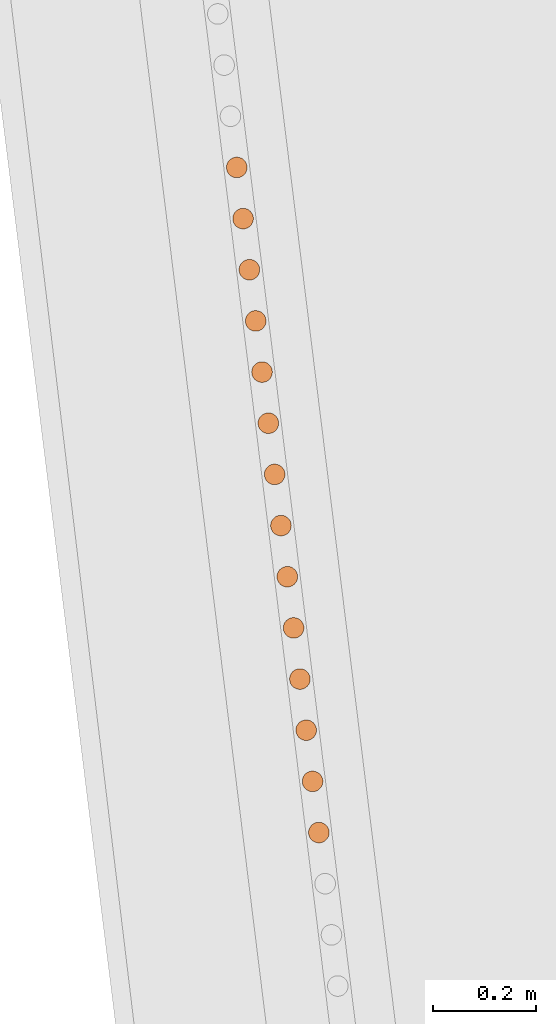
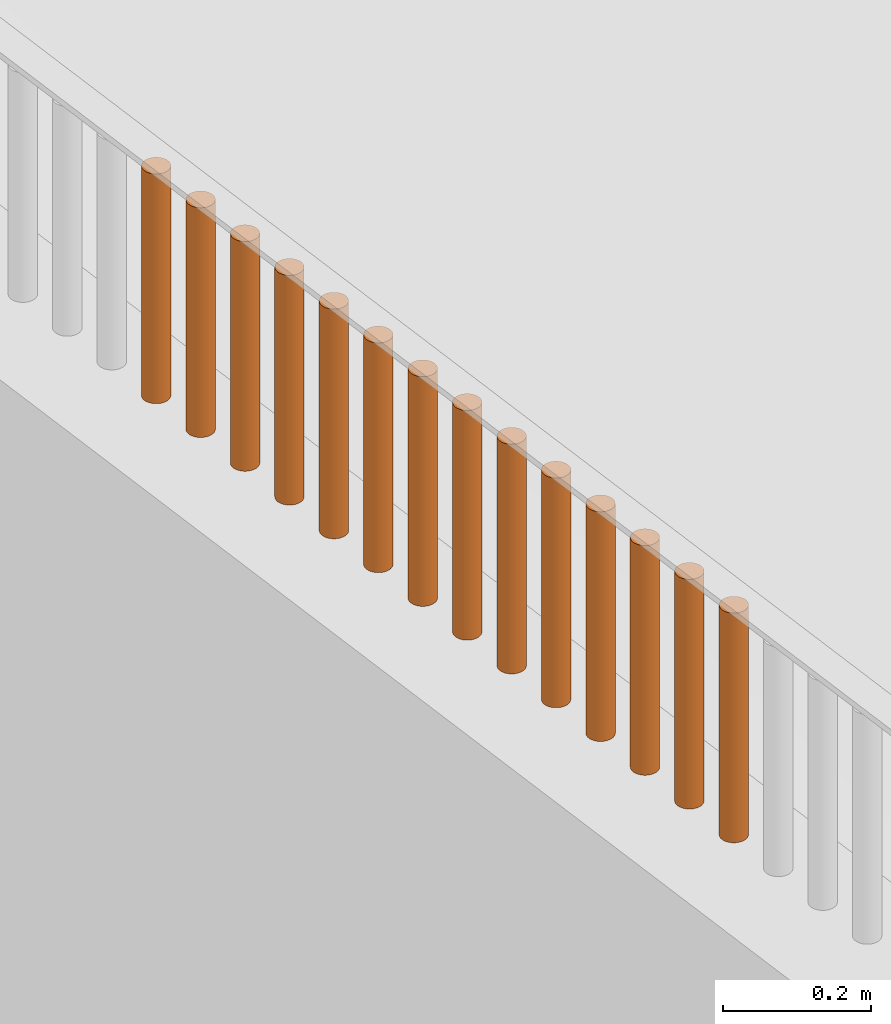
# One storey, part 62 of 1809: 14 proxies, 1 element without a shape of its own.
"""IFC2X3 building model written with IfcOpenShell, lengths in millimetres."""

from ifc_helpers import new_model, entity, si_unit, converted_unit, derived_unit, money_unit, direction, frame, origin_with_axes, place, context, subcontext, project, spatial, faceted_brep, source, transform, mapped, material, type_object, element, aggregate, save


model = new_model("IFC2X3")

# Units and contexts
model_context = context("Model", 3, precision=0.01, world=origin_with_axes(), true_north=direction((0.0, 1.0)))
body_context = subcontext(model_context, "Body", "Model", "MODEL_VIEW")
ifc_project = project(units=[si_unit("LENGTHUNIT", "METRE", prefix="MILLI"), si_unit("AREAUNIT", "SQUARE_METRE"), si_unit("VOLUMEUNIT", "CUBIC_METRE"), converted_unit("PLANEANGLEUNIT", "DEGREE", entity("IfcPlaneAngleMeasure", 0.0174532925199), si_unit("PLANEANGLEUNIT", "RADIAN"), dimensions=[0, 0, 0, 0, 0, 0, 0]), si_unit("SOLIDANGLEUNIT", "STERADIAN"), money_unit("EUR"), converted_unit("TIMEUNIT", "Year", entity("IfcTimeMeasure", 31556926.0), si_unit("TIMEUNIT", "SECOND"), dimensions=[0, 0, 1, 0, 0, 0, 0]), si_unit("MASSUNIT", "GRAM", prefix="KILO"), si_unit("THERMODYNAMICTEMPERATUREUNIT", "DEGREE_CELSIUS"), si_unit("LUMINOUSINTENSITYUNIT", "LUMEN"), si_unit("ENERGYUNIT", "JOULE", prefix="MEGA"), derived_unit("THERMALCONDUCTANCEUNIT", [(si_unit("POWERUNIT", "WATT"), 1), (si_unit("LENGTHUNIT", "METRE"), -1), (si_unit("THERMODYNAMICTEMPERATUREUNIT", "KELVIN"), -1)]), derived_unit("SPECIFICHEATCAPACITYUNIT", [(si_unit("ENERGYUNIT", "JOULE"), 1), (si_unit("MASSUNIT", "GRAM", prefix="KILO"), -1), (si_unit("THERMODYNAMICTEMPERATUREUNIT", "KELVIN"), -1)]), derived_unit("MASSDENSITYUNIT", [(si_unit("MASSUNIT", "GRAM", prefix="KILO"), 1), (si_unit("VOLUMEUNIT", "CUBIC_METRE"), -1)])], contexts=[model_context])

# Site, building, storey
site_placement = place(None, origin_with_axes())
site = spatial("IfcSite", under=ifc_project, at=site_placement, Name="Politse- ja Piirivalveameti ning Päästeameti ühishoone", CompositionType="ELEMENT")
building_placement = place(site_placement, origin_with_axes())
building = spatial("IfcBuilding", under=site, at=building_placement, Name="Politse- ja Piirivalveameti ning Päästeameti ühishoone", CompositionType="ELEMENT")
storey_placement = place(building_placement, origin_with_axes())
storey = spatial("IfcBuildingStorey", under=building, at=storey_placement, Name="Esimene korrus", CompositionType="ELEMENT", Elevation=0.0)

# Proxies
building_element_proxy_type_1 = type_object("IfcBuildingElementProxyType", Name="Railing Type", PredefinedType="NOTDEFINED")
proxy_1_placement = place(storey_placement, frame((-18956.5522504, -53688.4757966, 2100.0), z_axis=(0.0, 0.0, 1.0), x_axis=(1.0, 0.0, 0.0)))
proxy_1 = element("IfcBuildingElementProxy", 1, at=proxy_1_placement, inside=storey, type_object=building_element_proxy_type_1, Name="PIIRDEAED")
ifc_material = material(Name="ET-06_Teras - Konstruktsioon")
building_element_proxy_type_2 = type_object("IfcBuildingElementProxyType", Name="IfcBuildingElementProxy", PredefinedType="NOTDEFINED")
shared_shape_1 = source(origin_with_axes(), body_context, "Body", "Brep", [
    faceted_brep([(0.0, -20.0, 0.0), (3.47296355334, -19.6961550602, 0.0), (3.47296355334, -19.6961550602, 380.000012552), (0.0, -20.0, 380.000012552), (-3.47296355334, -19.6961550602, 0.0), (-6.84040286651, -18.7938524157, 0.0), (-10.0, -17.3205080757, 0.0), (-12.8557521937, -15.3208888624, 0.0), (-15.3208888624, -12.8557521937, 0.0), (-17.3205080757, -10.0, 0.0), (-18.7938524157, -6.84040286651, 0.0), (-19.6961550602, -3.47296355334, 0.0), (-20.0, 0.0, 0.0), (-19.6961550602, 3.47296355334, 0.0), (-18.7938524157, 6.84040286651, 0.0), (-17.3205080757, 10.0, 0.0), (-15.3208888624, 12.8557521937, 0.0), (-12.8557521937, 15.3208888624, 0.0), (-10.0, 17.3205080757, 0.0), (-6.84040286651, 18.7938524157, 0.0), (-3.47296355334, 19.6961550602, 0.0), (0.0, 20.0, 0.0), (3.47296355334, 19.6961550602, 0.0), (6.84040286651, 18.7938524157, 0.0), (10.0, 17.3205080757, 0.0), (12.8557521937, 15.3208888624, 0.0), (15.3208888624, 12.8557521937, 0.0), (17.3205080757, 10.0, 0.0), (18.7938524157, 6.84040286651, 0.0), (19.6961550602, 3.47296355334, 0.0), (20.0, 0.0, 0.0), (19.6961550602, -3.47296355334, 0.0), (18.7938524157, -6.84040286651, 0.0), (17.3205080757, -10.0, 0.0), (15.3208888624, -12.8557521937, 0.0), (12.8557521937, -15.3208888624, 0.0), (10.0, -17.3205080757, 0.0), (6.84040286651, -18.7938524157, 0.0), (6.84040286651, -18.7938524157, 380.000012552), (10.0, -17.3205080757, 380.000012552), (12.8557521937, -15.3208888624, 380.000012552), (15.3208888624, -12.8557521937, 380.000012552), (17.3205080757, -10.0, 380.000012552), (18.7938524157, -6.84040286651, 380.000012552), (19.6961550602, -3.47296355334, 380.000012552), (20.0, 0.0, 380.000012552), (19.6961550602, 3.47296355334, 380.000012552), (18.7938524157, 6.84040286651, 380.000012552), (17.3205080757, 10.0, 380.000012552), (15.3208888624, 12.8557521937, 380.000012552), (12.8557521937, 15.3208888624, 380.000012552), (10.0, 17.3205080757, 380.000012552), (6.84040286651, 18.7938524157, 380.000012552), (3.47296355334, 19.6961550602, 380.000012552), (0.0, 20.0, 380.000012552), (-3.47296355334, 19.6961550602, 380.000012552), (-6.84040286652, 18.7938524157, 380.000012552), (-10.0, 17.3205080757, 380.000012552), (-12.8557521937, 15.3208888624, 380.000012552), (-15.3208888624, 12.8557521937, 380.000012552), (-17.3205080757, 10.0, 380.000012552), (-18.7938524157, 6.84040286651, 380.000012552), (-19.6961550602, 3.47296355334, 380.000012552), (-20.0, 0.0, 380.000012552), (-19.6961550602, -3.47296355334, 380.000012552), (-18.7938524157, -6.84040286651, 380.000012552), (-17.3205080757, -10.0, 380.000012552), (-15.3208888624, -12.8557521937, 380.000012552), (-12.8557521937, -15.3208888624, 380.000012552), (-10.0, -17.3205080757, 380.000012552), (-6.84040286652, -18.7938524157, 380.000012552), (-3.47296355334, -19.6961550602, 380.000012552)], [[[0, 1, 2, 3]], [[0, 4, 5, 6, 7, 8, 9, 10, 11, 12, 13, 14, 15, 16, 17, 18, 19, 20, 21, 22, 23, 24, 25, 26, 27, 28, 29, 30, 31, 32, 33, 34, 35, 36, 37, 1]], [[1, 37, 38, 2]], [[3, 2, 38, 39, 40, 41, 42, 43, 44, 45, 46, 47, 48, 49, 50, 51, 52, 53, 54, 55, 56, 57, 58, 59, 60, 61, 62, 63, 64, 65, 66, 67, 68, 69, 70, 71]], [[4, 0, 3, 71]], [[5, 4, 71, 70]], [[6, 5, 70, 69]], [[7, 6, 69, 68]], [[8, 7, 68, 67]], [[9, 8, 67, 66]], [[10, 9, 66, 65]], [[11, 10, 65, 64]], [[12, 11, 64, 63]], [[13, 12, 63, 62]], [[14, 13, 62, 61]], [[15, 14, 61, 60]], [[16, 15, 60, 59]], [[17, 16, 59, 58]], [[18, 17, 58, 57]], [[19, 18, 57, 56]], [[20, 19, 56, 55]], [[21, 20, 55, 54]], [[22, 21, 54, 53]], [[23, 22, 53, 52]], [[24, 23, 52, 51]], [[25, 24, 51, 50]], [[26, 25, 50, 49]], [[27, 26, 49, 48]], [[28, 27, 48, 47]], [[29, 28, 47, 46]], [[30, 29, 46, 45]], [[31, 30, 45, 44]], [[32, 31, 44, 43]], [[33, 32, 43, 42]], [[34, 33, 42, 41]], [[35, 34, 41, 40]], [[36, 35, 40, 39]], [[37, 36, 39, 38]]]),
])
proxy_2_placement = place(proxy_1_placement, frame((-1121.83005544, 8254.50168487, -1.25517001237e-05), z_axis=(0.0, 0.0, 1.0), x_axis=(1.0, 0.0, 0.0)))
proxy_2 = element("IfcBuildingElementProxy", 2, at=proxy_2_placement, type_object=building_element_proxy_type_2, material=ifc_material, Name="BALUSTER - 001", context=body_context, shape_type="MappedRepresentation", body=[
    mapped(shared_shape_1, transform((0.0, 0.0, 0.0), x_axis=(0.992468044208, 0.122503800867, 0.0), y_axis=(-0.122503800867, 0.992468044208, 0.0), z_axis=(0.0, 0.0, 1.0))),
])
shared_shape_2 = source(origin_with_axes(), body_context, "Body", "Brep", [
    faceted_brep([(0.0, -20.0, 0.0), (3.47296355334, -19.6961550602, 0.0), (3.47296355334, -19.6961550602, 380.000012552), (0.0, -20.0, 380.000012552), (-3.47296355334, -19.6961550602, 0.0), (-6.84040286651, -18.7938524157, 0.0), (-10.0, -17.3205080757, 0.0), (-12.8557521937, -15.3208888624, 0.0), (-15.3208888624, -12.8557521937, 0.0), (-17.3205080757, -10.0, 0.0), (-18.7938524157, -6.84040286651, 0.0), (-19.6961550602, -3.47296355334, 0.0), (-20.0, 0.0, 0.0), (-19.6961550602, 3.47296355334, 0.0), (-18.7938524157, 6.84040286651, 0.0), (-17.3205080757, 10.0, 0.0), (-15.3208888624, 12.8557521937, 0.0), (-12.8557521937, 15.3208888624, 0.0), (-10.0, 17.3205080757, 0.0), (-6.84040286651, 18.7938524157, 0.0), (-3.47296355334, 19.6961550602, 0.0), (0.0, 20.0, 0.0), (3.47296355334, 19.6961550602, 0.0), (6.84040286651, 18.7938524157, 0.0), (10.0, 17.3205080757, 0.0), (12.8557521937, 15.3208888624, 0.0), (15.3208888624, 12.8557521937, 0.0), (17.3205080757, 10.0, 0.0), (18.7938524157, 6.84040286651, 0.0), (19.6961550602, 3.47296355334, 0.0), (20.0, 0.0, 0.0), (19.6961550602, -3.47296355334, 0.0), (18.7938524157, -6.84040286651, 0.0), (17.3205080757, -10.0, 0.0), (15.3208888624, -12.8557521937, 0.0), (12.8557521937, -15.3208888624, 0.0), (10.0, -17.3205080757, 0.0), (6.84040286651, -18.7938524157, 0.0), (6.84040286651, -18.7938524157, 380.000012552), (10.0, -17.3205080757, 380.000012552), (12.8557521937, -15.3208888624, 380.000012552), (15.3208888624, -12.8557521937, 380.000012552), (17.3205080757, -10.0, 380.000012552), (18.7938524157, -6.84040286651, 380.000012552), (19.6961550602, -3.47296355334, 380.000012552), (20.0, 0.0, 380.000012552), (19.6961550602, 3.47296355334, 380.000012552), (18.7938524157, 6.84040286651, 380.000012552), (17.3205080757, 10.0, 380.000012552), (15.3208888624, 12.8557521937, 380.000012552), (12.8557521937, 15.3208888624, 380.000012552), (10.0, 17.3205080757, 380.000012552), (6.84040286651, 18.7938524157, 380.000012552), (3.47296355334, 19.6961550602, 380.000012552), (0.0, 20.0, 380.000012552), (-3.47296355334, 19.6961550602, 380.000012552), (-6.84040286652, 18.7938524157, 380.000012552), (-10.0, 17.3205080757, 380.000012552), (-12.8557521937, 15.3208888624, 380.000012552), (-15.3208888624, 12.8557521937, 380.000012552), (-17.3205080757, 10.0, 380.000012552), (-18.7938524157, 6.84040286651, 380.000012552), (-19.6961550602, 3.47296355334, 380.000012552), (-20.0, 0.0, 380.000012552), (-19.6961550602, -3.47296355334, 380.000012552), (-18.7938524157, -6.84040286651, 380.000012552), (-17.3205080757, -10.0, 380.000012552), (-15.3208888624, -12.8557521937, 380.000012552), (-12.8557521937, -15.3208888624, 380.000012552), (-10.0, -17.3205080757, 380.000012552), (-6.84040286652, -18.7938524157, 380.000012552), (-3.47296355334, -19.6961550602, 380.000012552)], [[[0, 1, 2, 3]], [[0, 4, 5, 6, 7, 8, 9, 10, 11, 12, 13, 14, 15, 16, 17, 18, 19, 20, 21, 22, 23, 24, 25, 26, 27, 28, 29, 30, 31, 32, 33, 34, 35, 36, 37, 1]], [[1, 37, 38, 2]], [[3, 2, 38, 39, 40, 41, 42, 43, 44, 45, 46, 47, 48, 49, 50, 51, 52, 53, 54, 55, 56, 57, 58, 59, 60, 61, 62, 63, 64, 65, 66, 67, 68, 69, 70, 71]], [[4, 0, 3, 71]], [[5, 4, 71, 70]], [[6, 5, 70, 69]], [[7, 6, 69, 68]], [[8, 7, 68, 67]], [[9, 8, 67, 66]], [[10, 9, 66, 65]], [[11, 10, 65, 64]], [[12, 11, 64, 63]], [[13, 12, 63, 62]], [[14, 13, 62, 61]], [[15, 14, 61, 60]], [[16, 15, 60, 59]], [[17, 16, 59, 58]], [[18, 17, 58, 57]], [[19, 18, 57, 56]], [[20, 19, 56, 55]], [[21, 20, 55, 54]], [[22, 21, 54, 53]], [[23, 22, 53, 52]], [[24, 23, 52, 51]], [[25, 24, 51, 50]], [[26, 25, 50, 49]], [[27, 26, 49, 48]], [[28, 27, 48, 47]], [[29, 28, 47, 46]], [[30, 29, 46, 45]], [[31, 30, 45, 44]], [[32, 31, 44, 43]], [[33, 32, 43, 42]], [[34, 33, 42, 41]], [[35, 34, 41, 40]], [[36, 35, 40, 39]], [[37, 36, 39, 38]]]),
])
proxy_3_placement = place(proxy_1_placement, frame((-1134.07776035, 8353.72681629, -1.25517001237e-05), z_axis=(0.0, 0.0, 1.0), x_axis=(1.0, 0.0, 0.0)))
proxy_3 = element("IfcBuildingElementProxy", 3, at=proxy_3_placement, type_object=building_element_proxy_type_2, material=ifc_material, Name="BALUSTER - 001", context=body_context, shape_type="MappedRepresentation", body=[
    mapped(shared_shape_2, transform((0.0, 0.0, 0.0), x_axis=(0.992468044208, 0.122503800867, 0.0), y_axis=(-0.122503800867, 0.992468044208, 0.0), z_axis=(0.0, 0.0, 1.0))),
])
proxy_4_placement = place(proxy_1_placement, frame((-1146.32546526, 8452.95194772, -1.25517001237e-05), z_axis=(0.0, 0.0, 1.0), x_axis=(1.0, 0.0, 0.0)))
proxy_4 = element("IfcBuildingElementProxy", 4, at=proxy_4_placement, type_object=building_element_proxy_type_2, material=ifc_material, Name="BALUSTER - 001", context=body_context, shape_type="MappedRepresentation", body=[
    mapped(shared_shape_2, transform((0.0, 0.0, 0.0), x_axis=(0.992468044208, 0.122503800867, 0.0), y_axis=(-0.122503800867, 0.992468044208, 0.0), z_axis=(0.0, 0.0, 1.0))),
])
proxy_5_placement = place(proxy_1_placement, frame((-1183.06858, 8750.627342, -1.25517001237e-05), z_axis=(0.0, 0.0, 1.0), x_axis=(1.0, 0.0, 0.0)))
proxy_5 = element("IfcBuildingElementProxy", 5, at=proxy_5_placement, type_object=building_element_proxy_type_2, material=ifc_material, Name="BALUSTER - 001", context=body_context, shape_type="MappedRepresentation", body=[
    mapped(shared_shape_2, transform((0.0, 0.0, 0.0), x_axis=(0.992468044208, 0.122503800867, 0.0), y_axis=(-0.122503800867, 0.992468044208, 0.0), z_axis=(0.0, 0.0, 1.0))),
])
proxy_6_placement = place(proxy_1_placement, frame((-1195.31628491, 8849.85247342, -1.25517001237e-05), z_axis=(0.0, 0.0, 1.0), x_axis=(1.0, 0.0, 0.0)))
proxy_6 = element("IfcBuildingElementProxy", 6, at=proxy_6_placement, type_object=building_element_proxy_type_2, material=ifc_material, Name="BALUSTER - 001", context=body_context, shape_type="MappedRepresentation", body=[
    mapped(shared_shape_2, transform((0.0, 0.0, 0.0), x_axis=(0.992468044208, 0.122503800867, 0.0), y_axis=(-0.122503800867, 0.992468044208, 0.0), z_axis=(0.0, 0.0, 1.0))),
])
proxy_7_placement = place(proxy_1_placement, frame((-1219.81169474, 9048.30273627, -1.25517001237e-05), z_axis=(0.0, 0.0, 1.0), x_axis=(1.0, 0.0, 0.0)))
proxy_7 = element("IfcBuildingElementProxy", 7, at=proxy_7_placement, type_object=building_element_proxy_type_2, material=ifc_material, Name="BALUSTER - 001", context=body_context, shape_type="MappedRepresentation", body=[
    mapped(shared_shape_2, transform((0.0, 0.0, 0.0), x_axis=(0.992468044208, 0.122503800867, 0.0), y_axis=(-0.122503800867, 0.992468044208, 0.0), z_axis=(0.0, 0.0, 1.0))),
])
proxy_8_placement = place(proxy_1_placement, frame((-1244.30710457, 9246.75299912, -1.25517001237e-05), z_axis=(0.0, 0.0, 1.0), x_axis=(1.0, 0.0, 0.0)))
proxy_8 = element("IfcBuildingElementProxy", 8, at=proxy_8_placement, type_object=building_element_proxy_type_2, material=ifc_material, Name="BALUSTER - 001", context=body_context, shape_type="MappedRepresentation", body=[
    mapped(shared_shape_2, transform((0.0, 0.0, 0.0), x_axis=(0.992468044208, 0.122503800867, 0.0), y_axis=(-0.122503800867, 0.992468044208, 0.0), z_axis=(0.0, 0.0, 1.0))),
])
shared_shape_3 = source(origin_with_axes(), body_context, "Body", "Brep", [
    faceted_brep([(0.0, -20.0, 0.0), (3.47296355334, -19.6961550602, 0.0), (3.47296355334, -19.6961550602, 380.000012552), (0.0, -20.0, 380.000012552), (-3.47296355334, -19.6961550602, 0.0), (-6.84040286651, -18.7938524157, 0.0), (-10.0, -17.3205080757, 0.0), (-12.8557521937, -15.3208888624, 0.0), (-15.3208888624, -12.8557521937, 0.0), (-17.3205080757, -10.0, 0.0), (-18.7938524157, -6.84040286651, 0.0), (-19.6961550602, -3.47296355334, 0.0), (-20.0, 0.0, 0.0), (-19.6961550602, 3.47296355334, 0.0), (-18.7938524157, 6.84040286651, 0.0), (-17.3205080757, 10.0, 0.0), (-15.3208888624, 12.8557521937, 0.0), (-12.8557521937, 15.3208888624, 0.0), (-10.0, 17.3205080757, 0.0), (-6.84040286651, 18.7938524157, 0.0), (-3.47296355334, 19.6961550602, 0.0), (0.0, 20.0, 0.0), (3.47296355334, 19.6961550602, 0.0), (6.84040286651, 18.7938524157, 0.0), (10.0, 17.3205080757, 0.0), (12.8557521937, 15.3208888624, 0.0), (15.3208888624, 12.8557521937, 0.0), (17.3205080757, 10.0, 0.0), (18.7938524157, 6.84040286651, 0.0), (19.6961550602, 3.47296355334, 0.0), (20.0, 0.0, 0.0), (19.6961550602, -3.47296355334, 0.0), (18.7938524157, -6.84040286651, 0.0), (17.3205080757, -10.0, 0.0), (15.3208888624, -12.8557521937, 0.0), (12.8557521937, -15.3208888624, 0.0), (10.0, -17.3205080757, 0.0), (6.84040286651, -18.7938524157, 0.0), (6.84040286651, -18.7938524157, 380.000012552), (10.0, -17.3205080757, 380.000012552), (12.8557521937, -15.3208888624, 380.000012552), (15.3208888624, -12.8557521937, 380.000012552), (17.3205080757, -10.0, 380.000012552), (18.7938524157, -6.84040286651, 380.000012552), (19.6961550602, -3.47296355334, 380.000012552), (20.0, 0.0, 380.000012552), (19.6961550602, 3.47296355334, 380.000012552), (18.7938524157, 6.84040286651, 380.000012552), (17.3205080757, 10.0, 380.000012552), (15.3208888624, 12.8557521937, 380.000012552), (12.8557521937, 15.3208888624, 380.000012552), (10.0, 17.3205080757, 380.000012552), (6.84040286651, 18.7938524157, 380.000012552), (3.47296355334, 19.6961550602, 380.000012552), (0.0, 20.0, 380.000012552), (-3.47296355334, 19.6961550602, 380.000012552), (-6.84040286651, 18.7938524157, 380.000012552), (-10.0, 17.3205080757, 380.000012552), (-12.8557521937, 15.3208888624, 380.000012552), (-15.3208888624, 12.8557521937, 380.000012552), (-17.3205080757, 10.0, 380.000012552), (-18.7938524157, 6.84040286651, 380.000012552), (-19.6961550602, 3.47296355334, 380.000012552), (-20.0, 0.0, 380.000012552), (-19.6961550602, -3.47296355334, 380.000012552), (-18.7938524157, -6.84040286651, 380.000012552), (-17.3205080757, -10.0, 380.000012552), (-15.3208888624, -12.8557521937, 380.000012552), (-12.8557521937, -15.3208888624, 380.000012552), (-10.0, -17.3205080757, 380.000012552), (-6.84040286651, -18.7938524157, 380.000012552), (-3.47296355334, -19.6961550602, 380.000012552)], [[[0, 1, 2, 3]], [[0, 4, 5, 6, 7, 8, 9, 10, 11, 12, 13, 14, 15, 16, 17, 18, 19, 20, 21, 22, 23, 24, 25, 26, 27, 28, 29, 30, 31, 32, 33, 34, 35, 36, 37, 1]], [[1, 37, 38, 2]], [[3, 2, 38, 39, 40, 41, 42, 43, 44, 45, 46, 47, 48, 49, 50, 51, 52, 53, 54, 55, 56, 57, 58, 59, 60, 61, 62, 63, 64, 65, 66, 67, 68, 69, 70, 71]], [[4, 0, 3, 71]], [[5, 4, 71, 70]], [[6, 5, 70, 69]], [[7, 6, 69, 68]], [[8, 7, 68, 67]], [[9, 8, 67, 66]], [[10, 9, 66, 65]], [[11, 10, 65, 64]], [[12, 11, 64, 63]], [[13, 12, 63, 62]], [[14, 13, 62, 61]], [[15, 14, 61, 60]], [[16, 15, 60, 59]], [[17, 16, 59, 58]], [[18, 17, 58, 57]], [[19, 18, 57, 56]], [[20, 19, 56, 55]], [[21, 20, 55, 54]], [[22, 21, 54, 53]], [[23, 22, 53, 52]], [[24, 23, 52, 51]], [[25, 24, 51, 50]], [[26, 25, 50, 49]], [[27, 26, 49, 48]], [[28, 27, 48, 47]], [[29, 28, 47, 46]], [[30, 29, 46, 45]], [[31, 30, 45, 44]], [[32, 31, 44, 43]], [[33, 32, 43, 42]], [[34, 33, 42, 41]], [[35, 34, 41, 40]], [[36, 35, 40, 39]], [[37, 36, 39, 38]]]),
])
proxy_9_placement = place(proxy_1_placement, frame((-1158.57317017, 8552.17707914, -1.25517001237e-05), z_axis=(0.0, 0.0, 1.0), x_axis=(1.0, 0.0, 0.0)))
proxy_9 = element("IfcBuildingElementProxy", 9, at=proxy_9_placement, type_object=building_element_proxy_type_2, material=ifc_material, Name="BALUSTER - 001", context=body_context, shape_type="MappedRepresentation", body=[
    mapped(shared_shape_3, transform((0.0, 0.0, 0.0), x_axis=(0.992468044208, 0.122503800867, 0.0), y_axis=(-0.122503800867, 0.992468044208, 0.0), z_axis=(0.0, 0.0, 1.0))),
])
proxy_10_placement = place(proxy_1_placement, frame((-1268.80251439, 9445.20326197, -1.25517001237e-05), z_axis=(0.0, 0.0, 1.0), x_axis=(1.0, 0.0, 0.0)))
proxy_10 = element("IfcBuildingElementProxy", 10, at=proxy_10_placement, type_object=building_element_proxy_type_2, material=ifc_material, Name="BALUSTER - 001", context=body_context, shape_type="MappedRepresentation", body=[
    mapped(shared_shape_3, transform((0.0, 0.0, 0.0), x_axis=(0.992468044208, 0.122503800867, 0.0), y_axis=(-0.122503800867, 0.992468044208, 0.0), z_axis=(0.0, 0.0, 1.0))),
])
shared_shape_4 = source(origin_with_axes(), body_context, "Body", "Brep", [
    faceted_brep([(0.0, -20.0, 0.0), (3.47296355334, -19.6961550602, 0.0), (3.47296355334, -19.6961550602, 380.000012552), (0.0, -20.0, 380.000012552), (-3.47296355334, -19.6961550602, 0.0), (-6.84040286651, -18.7938524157, 0.0), (-10.0, -17.3205080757, 0.0), (-12.8557521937, -15.3208888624, 0.0), (-15.3208888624, -12.8557521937, 0.0), (-17.3205080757, -10.0, 0.0), (-18.7938524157, -6.84040286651, 0.0), (-19.6961550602, -3.47296355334, 0.0), (-20.0, 0.0, 0.0), (-19.6961550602, 3.47296355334, 0.0), (-18.7938524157, 6.84040286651, 0.0), (-17.3205080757, 10.0, 0.0), (-15.3208888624, 12.8557521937, 0.0), (-12.8557521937, 15.3208888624, 0.0), (-10.0, 17.3205080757, 0.0), (-6.84040286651, 18.7938524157, 0.0), (-3.47296355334, 19.6961550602, 0.0), (0.0, 20.0, 0.0), (3.47296355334, 19.6961550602, 0.0), (6.84040286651, 18.7938524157, 0.0), (10.0, 17.3205080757, 0.0), (12.8557521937, 15.3208888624, 0.0), (15.3208888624, 12.8557521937, 0.0), (17.3205080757, 10.0, 0.0), (18.7938524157, 6.84040286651, 0.0), (19.6961550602, 3.47296355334, 0.0), (20.0, 0.0, 0.0), (19.6961550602, -3.47296355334, 0.0), (18.7938524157, -6.84040286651, 0.0), (17.3205080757, -10.0, 0.0), (15.3208888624, -12.8557521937, 0.0), (12.8557521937, -15.3208888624, 0.0), (10.0, -17.3205080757, 0.0), (6.84040286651, -18.7938524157, 0.0), (6.84040286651, -18.7938524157, 380.000012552), (10.0, -17.3205080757, 380.000012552), (12.8557521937, -15.3208888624, 380.000012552), (15.3208888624, -12.8557521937, 380.000012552), (17.3205080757, -10.0, 380.000012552), (18.7938524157, -6.84040286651, 380.000012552), (19.6961550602, -3.47296355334, 380.000012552), (20.0, 0.0, 380.000012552), (19.6961550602, 3.47296355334, 380.000012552), (18.7938524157, 6.84040286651, 380.000012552), (17.3205080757, 10.0, 380.000012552), (15.3208888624, 12.8557521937, 380.000012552), (12.8557521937, 15.3208888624, 380.000012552), (10.0, 17.3205080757, 380.000012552), (6.84040286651, 18.7938524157, 380.000012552), (3.47296355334, 19.6961550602, 380.000012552), (0.0, 20.0, 380.000012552), (-3.47296355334, 19.6961550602, 380.000012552), (-6.84040286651, 18.7938524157, 380.000012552), (-10.0, 17.3205080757, 380.000012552), (-12.8557521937, 15.3208888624, 380.000012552), (-15.3208888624, 12.8557521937, 380.000012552), (-17.3205080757, 10.0, 380.000012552), (-18.7938524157, 6.84040286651, 380.000012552), (-19.6961550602, 3.47296355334, 380.000012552), (-20.0, 0.0, 380.000012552), (-19.6961550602, -3.47296355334, 380.000012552), (-18.7938524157, -6.84040286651, 380.000012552), (-17.3205080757, -10.0, 380.000012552), (-15.3208888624, -12.8557521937, 380.000012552), (-12.8557521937, -15.3208888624, 380.000012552), (-10.0, -17.3205080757, 380.000012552), (-6.84040286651, -18.7938524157, 380.000012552), (-3.47296355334, -19.6961550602, 380.000012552)], [[[0, 1, 2, 3]], [[0, 4, 5, 6, 7, 8, 9, 10, 11, 12, 13, 14, 15, 16, 17, 18, 19, 20, 21, 22, 23, 24, 25, 26, 27, 28, 29, 30, 31, 32, 33, 34, 35, 36, 37, 1]], [[1, 37, 38, 2]], [[3, 2, 38, 39, 40, 41, 42, 43, 44, 45, 46, 47, 48, 49, 50, 51, 52, 53, 54, 55, 56, 57, 58, 59, 60, 61, 62, 63, 64, 65, 66, 67, 68, 69, 70, 71]], [[4, 0, 3, 71]], [[5, 4, 71, 70]], [[6, 5, 70, 69]], [[7, 6, 69, 68]], [[8, 7, 68, 67]], [[9, 8, 67, 66]], [[10, 9, 66, 65]], [[11, 10, 65, 64]], [[12, 11, 64, 63]], [[13, 12, 63, 62]], [[14, 13, 62, 61]], [[15, 14, 61, 60]], [[16, 15, 60, 59]], [[17, 16, 59, 58]], [[18, 17, 58, 57]], [[19, 18, 57, 56]], [[20, 19, 56, 55]], [[21, 20, 55, 54]], [[22, 21, 54, 53]], [[23, 22, 53, 52]], [[24, 23, 52, 51]], [[25, 24, 51, 50]], [[26, 25, 50, 49]], [[27, 26, 49, 48]], [[28, 27, 48, 47]], [[29, 28, 47, 46]], [[30, 29, 46, 45]], [[31, 30, 45, 44]], [[32, 31, 44, 43]], [[33, 32, 43, 42]], [[34, 33, 42, 41]], [[35, 34, 41, 40]], [[36, 35, 40, 39]], [[37, 36, 39, 38]]]),
])
proxy_11_placement = place(proxy_1_placement, frame((-1170.82087509, 8651.40221057, -1.25517001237e-05), z_axis=(0.0, 0.0, 1.0), x_axis=(1.0, 0.0, 0.0)))
proxy_11 = element("IfcBuildingElementProxy", 11, at=proxy_11_placement, type_object=building_element_proxy_type_2, material=ifc_material, Name="BALUSTER - 001", context=body_context, shape_type="MappedRepresentation", body=[
    mapped(shared_shape_4, transform((0.0, 0.0, 0.0), x_axis=(0.992468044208, 0.122503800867, 0.0), y_axis=(-0.122503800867, 0.992468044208, 0.0), z_axis=(0.0, 0.0, 1.0))),
])
shared_shape_5 = source(origin_with_axes(), body_context, "Body", "Brep", [
    faceted_brep([(0.0, -20.0, 0.0), (3.47296355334, -19.6961550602, 0.0), (3.47296355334, -19.6961550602, 380.000012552), (0.0, -20.0, 380.000012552), (-3.47296355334, -19.6961550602, 0.0), (-6.84040286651, -18.7938524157, 0.0), (-10.0, -17.3205080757, 0.0), (-12.8557521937, -15.3208888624, 0.0), (-15.3208888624, -12.8557521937, 0.0), (-17.3205080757, -10.0, 0.0), (-18.7938524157, -6.84040286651, 0.0), (-19.6961550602, -3.47296355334, 0.0), (-20.0, 0.0, 0.0), (-19.6961550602, 3.47296355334, 0.0), (-18.7938524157, 6.84040286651, 0.0), (-17.3205080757, 10.0, 0.0), (-15.3208888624, 12.8557521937, 0.0), (-12.8557521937, 15.3208888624, 0.0), (-10.0, 17.3205080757, 0.0), (-6.84040286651, 18.7938524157, 0.0), (-3.47296355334, 19.6961550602, 0.0), (0.0, 20.0, 0.0), (3.47296355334, 19.6961550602, 0.0), (6.84040286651, 18.7938524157, 0.0), (10.0, 17.3205080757, 0.0), (12.8557521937, 15.3208888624, 0.0), (15.3208888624, 12.8557521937, 0.0), (17.3205080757, 10.0, 0.0), (18.7938524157, 6.84040286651, 0.0), (19.6961550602, 3.47296355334, 0.0), (20.0, 0.0, 0.0), (19.6961550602, -3.47296355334, 0.0), (18.7938524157, -6.84040286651, 0.0), (17.3205080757, -10.0, 0.0), (15.3208888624, -12.8557521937, 0.0), (12.8557521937, -15.3208888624, 0.0), (10.0, -17.3205080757, 0.0), (6.84040286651, -18.7938524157, 0.0), (6.84040286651, -18.7938524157, 380.000012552), (10.0, -17.3205080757, 380.000012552), (12.8557521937, -15.3208888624, 380.000012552), (15.3208888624, -12.8557521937, 380.000012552), (17.3205080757, -10.0, 380.000012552), (18.7938524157, -6.84040286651, 380.000012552), (19.6961550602, -3.47296355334, 380.000012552), (20.0, 0.0, 380.000012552), (19.6961550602, 3.47296355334, 380.000012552), (18.7938524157, 6.84040286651, 380.000012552), (17.3205080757, 10.0, 380.000012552), (15.3208888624, 12.8557521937, 380.000012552), (12.8557521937, 15.3208888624, 380.000012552), (10.0, 17.3205080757, 380.000012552), (6.84040286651, 18.7938524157, 380.000012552), (3.47296355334, 19.6961550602, 380.000012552), (0.0, 20.0, 380.000012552), (-3.47296355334, 19.6961550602, 380.000012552), (-6.84040286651, 18.7938524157, 380.000012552), (-10.0, 17.3205080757, 380.000012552), (-12.8557521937, 15.3208888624, 380.000012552), (-15.3208888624, 12.8557521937, 380.000012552), (-17.3205080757, 10.0, 380.000012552), (-18.7938524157, 6.84040286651, 380.000012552), (-19.6961550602, 3.47296355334, 380.000012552), (-20.0, 0.0, 380.000012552), (-19.6961550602, -3.47296355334, 380.000012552), (-18.7938524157, -6.84040286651, 380.000012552), (-17.3205080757, -10.0, 380.000012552), (-15.3208888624, -12.8557521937, 380.000012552), (-12.8557521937, -15.3208888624, 380.000012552), (-10.0, -17.3205080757, 380.000012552), (-6.84040286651, -18.7938524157, 380.000012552), (-3.47296355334, -19.6961550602, 380.000012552)], [[[0, 1, 2, 3]], [[0, 4, 5, 6, 7, 8, 9, 10, 11, 12, 13, 14, 15, 16, 17, 18, 19, 20, 21, 22, 23, 24, 25, 26, 27, 28, 29, 30, 31, 32, 33, 34, 35, 36, 37, 1]], [[1, 37, 38, 2]], [[3, 2, 38, 39, 40, 41, 42, 43, 44, 45, 46, 47, 48, 49, 50, 51, 52, 53, 54, 55, 56, 57, 58, 59, 60, 61, 62, 63, 64, 65, 66, 67, 68, 69, 70, 71]], [[4, 0, 3, 71]], [[5, 4, 71, 70]], [[6, 5, 70, 69]], [[7, 6, 69, 68]], [[8, 7, 68, 67]], [[9, 8, 67, 66]], [[10, 9, 66, 65]], [[11, 10, 65, 64]], [[12, 11, 64, 63]], [[13, 12, 63, 62]], [[14, 13, 62, 61]], [[15, 14, 61, 60]], [[16, 15, 60, 59]], [[17, 16, 59, 58]], [[18, 17, 58, 57]], [[19, 18, 57, 56]], [[20, 19, 56, 55]], [[21, 20, 55, 54]], [[22, 21, 54, 53]], [[23, 22, 53, 52]], [[24, 23, 52, 51]], [[25, 24, 51, 50]], [[26, 25, 50, 49]], [[27, 26, 49, 48]], [[28, 27, 48, 47]], [[29, 28, 47, 46]], [[30, 29, 46, 45]], [[31, 30, 45, 44]], [[32, 31, 44, 43]], [[33, 32, 43, 42]], [[34, 33, 42, 41]], [[35, 34, 41, 40]], [[36, 35, 40, 39]], [[37, 36, 39, 38]]]),
])
proxy_12_placement = place(proxy_1_placement, frame((-1207.56398983, 8949.07760485, -1.25517001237e-05), z_axis=(0.0, 0.0, 1.0), x_axis=(1.0, 0.0, 0.0)))
proxy_12 = element("IfcBuildingElementProxy", 12, at=proxy_12_placement, type_object=building_element_proxy_type_2, material=ifc_material, Name="BALUSTER - 001", context=body_context, shape_type="MappedRepresentation", body=[
    mapped(shared_shape_5, transform((0.0, 0.0, 0.0), x_axis=(0.992468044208, 0.122503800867, 0.0), y_axis=(-0.122503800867, 0.992468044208, 0.0), z_axis=(0.0, 0.0, 1.0))),
])
proxy_13_placement = place(proxy_1_placement, frame((-1232.05939965, 9147.5278677, -1.25517001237e-05), z_axis=(0.0, 0.0, 1.0), x_axis=(1.0, 0.0, 0.0)))
proxy_13 = element("IfcBuildingElementProxy", 13, at=proxy_13_placement, type_object=building_element_proxy_type_2, material=ifc_material, Name="BALUSTER - 001", context=body_context, shape_type="MappedRepresentation", body=[
    mapped(shared_shape_5, transform((0.0, 0.0, 0.0), x_axis=(0.992468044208, 0.122503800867, 0.0), y_axis=(-0.122503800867, 0.992468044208, 0.0), z_axis=(0.0, 0.0, 1.0))),
])
proxy_14_placement = place(proxy_1_placement, frame((-1256.55480948, 9345.97813055, -1.25517001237e-05), z_axis=(0.0, 0.0, 1.0), x_axis=(1.0, 0.0, 0.0)))
proxy_14 = element("IfcBuildingElementProxy", 14, at=proxy_14_placement, type_object=building_element_proxy_type_2, material=ifc_material, Name="BALUSTER - 001", context=body_context, shape_type="MappedRepresentation", body=[
    mapped(shared_shape_5, transform((0.0, 0.0, 0.0), x_axis=(0.992468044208, 0.122503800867, 0.0), y_axis=(-0.122503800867, 0.992468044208, 0.0), z_axis=(0.0, 0.0, 1.0))),
])
proxy_15_placement = place(proxy_1_placement, frame((-1281.05021931, 9544.4283934, -1.25517001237e-05), z_axis=(0.0, 0.0, 1.0), x_axis=(1.0, 0.0, 0.0)))
proxy_15 = element("IfcBuildingElementProxy", 15, at=proxy_15_placement, type_object=building_element_proxy_type_2, material=ifc_material, Name="BALUSTER - 001", context=body_context, shape_type="MappedRepresentation", body=[
    mapped(shared_shape_5, transform((0.0, 0.0, 0.0), x_axis=(0.992468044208, 0.122503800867, 0.0), y_axis=(-0.122503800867, 0.992468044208, 0.0), z_axis=(0.0, 0.0, 1.0))),
])
aggregate(proxy_1, [proxy_2, proxy_3, proxy_4, proxy_9, proxy_11, proxy_5, proxy_6, proxy_12, proxy_7, proxy_13, proxy_8, proxy_14, proxy_10, proxy_15])

save(model, "model.ifc")
